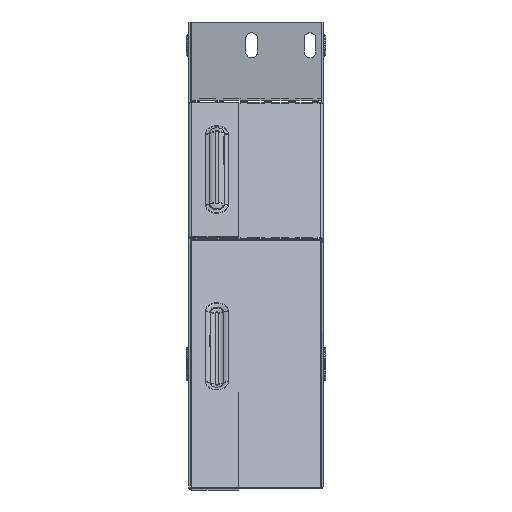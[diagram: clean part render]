
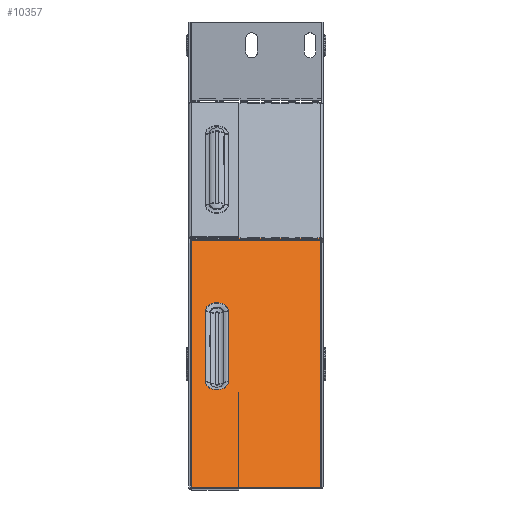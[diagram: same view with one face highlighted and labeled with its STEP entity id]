
A CAD part, left-side view. The second image highlights one B-rep face of the part: STEP entity #10357.
In plain terms, the highlighted planar face has unit normal (-0.707, 0, 0.707).
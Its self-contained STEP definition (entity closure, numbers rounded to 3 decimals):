
#43 = AXIS2_PLACEMENT_3D ( 'NONE', #16905, #16835, #7912 ) ;
#124 = ORIENTED_EDGE ( 'NONE', *, *, #9781, .F. ) ;
#423 = DIRECTION ( 'NONE',  ( 0.707, 0., 0.707 ) ) ;
#637 = EDGE_CURVE ( 'NONE', #15015, #12316, #9412, .T. ) ;
#1210 = CARTESIAN_POINT ( 'NONE',  ( 54.434, 56.183, -54.434 ) ) ;
#1450 = VERTEX_POINT ( 'NONE', #3456 ) ;
#2177 = VERTEX_POINT ( 'NONE', #11772 ) ;
#2752 = VERTEX_POINT ( 'NONE', #17674 ) ;
#3201 = LINE ( 'NONE', #1210, #12538 ) ;
#3334 = ORIENTED_EDGE ( 'NONE', *, *, #5588, .F. ) ;
#3456 = CARTESIAN_POINT ( 'NONE',  ( -30.255, 1., -139.123 ) ) ;
#3880 = CARTESIAN_POINT ( 'NONE',  ( 75.648, 70.017, -33.221 ) ) ;
#4185 = DIRECTION ( 'NONE',  ( -0.707, 0., -0.707 ) ) ;
#4793 = VERTEX_POINT ( 'NONE', #3880 ) ;
#5588 = EDGE_CURVE ( 'NONE', #14350, #1450, #16020, .T. ) ;
#5637 = CIRCLE ( 'NONE', #14034, 6.917 ) ;
#5760 = ORIENTED_EDGE ( 'NONE', *, *, #12103, .T. ) ;
#6013 = CARTESIAN_POINT ( 'NONE',  ( 33.221, 56.183, -75.648 ) ) ;
#6219 = VECTOR ( 'NONE', #16452, 1000. ) ;
#6373 = ORIENTED_EDGE ( 'NONE', *, *, #10365, .F. ) ;
#6467 = CARTESIAN_POINT ( 'NONE',  ( 139.123, 0., 30.255 ) ) ;
#6742 = EDGE_CURVE ( 'NONE', #11577, #2177, #3201, .T. ) ;
#7366 = CARTESIAN_POINT ( 'NONE',  ( 139.123, 78.2, 30.255 ) ) ;
#7453 = ORIENTED_EDGE ( 'NONE', *, *, #11722, .F. ) ;
#7912 = DIRECTION ( 'NONE',  ( 0., 1., 0. ) ) ;
#7987 = DIRECTION ( 'NONE',  ( 0., 1., 0. ) ) ;
#8764 = EDGE_CURVE ( 'NONE', #2177, #4793, #5637, .T. ) ;
#8804 = VECTOR ( 'NONE', #4185, 1000. ) ;
#9092 = EDGE_LOOP ( 'NONE', ( #6373, #124, #16686, #17571 ) ) ;
#9231 = CARTESIAN_POINT ( 'NONE',  ( -30.255, 78.2, -139.123 ) ) ;
#9329 = CARTESIAN_POINT ( 'NONE',  ( -30.255, 0., -139.123 ) ) ;
#9378 = DIRECTION ( 'NONE',  ( -0.707, 0., 0.707 ) ) ;
#9412 = LINE ( 'NONE', #11443, #14367 ) ;
#9443 = ORIENTED_EDGE ( 'NONE', *, *, #637, .F. ) ;
#9455 = LINE ( 'NONE', #6467, #11109 ) ;
#9553 = DIRECTION ( 'NONE',  ( 0., 1., 0. ) ) ;
#9781 = EDGE_CURVE ( 'NONE', #4793, #2752, #13984, .T. ) ;
#10055 = DIRECTION ( 'NONE',  ( 0., 1., 0. ) ) ;
#10248 = CIRCLE ( 'NONE', #43, 6.917 ) ;
#10357 = ADVANCED_FACE ( 'NONE', ( #11814, #18176 ), #10518, .T. ) ;
#10365 = EDGE_CURVE ( 'NONE', #2752, #11577, #10248, .T. ) ;
#10518 = PLANE ( 'NONE',  #14412 ) ;
#11109 = VECTOR ( 'NONE', #9553, 1000. ) ;
#11443 = CARTESIAN_POINT ( 'NONE',  ( 139.434, 78.2, 30.566 ) ) ;
#11577 = VERTEX_POINT ( 'NONE', #6013 ) ;
#11722 = EDGE_CURVE ( 'NONE', #1450, #15015, #17263, .T. ) ;
#11772 = CARTESIAN_POINT ( 'NONE',  ( 75.648, 56.183, -33.221 ) ) ;
#11814 = FACE_BOUND ( 'NONE', #9092, .T. ) ;
#12103 = EDGE_CURVE ( 'NONE', #14350, #12316, #9455, .T. ) ;
#12316 = VERTEX_POINT ( 'NONE', #7366 ) ;
#12410 = EDGE_LOOP ( 'NONE', ( #3334, #5760, #9443, #7453 ) ) ;
#12538 = VECTOR ( 'NONE', #16133, 1000. ) ;
#13254 = CARTESIAN_POINT ( 'NONE',  ( 75.648, 63.1, -33.221 ) ) ;
#13984 = LINE ( 'NONE', #17529, #8804 ) ;
#14034 = AXIS2_PLACEMENT_3D ( 'NONE', #13254, #16262, #10055 ) ;
#14350 = VERTEX_POINT ( 'NONE', #15803 ) ;
#14367 = VECTOR ( 'NONE', #17617, 1000. ) ;
#14412 = AXIS2_PLACEMENT_3D ( 'NONE', #18080, #9378, #423 ) ;
#14951 = VECTOR ( 'NONE', #7987, 1000. ) ;
#15015 = VERTEX_POINT ( 'NONE', #9231 ) ;
#15157 = CARTESIAN_POINT ( 'NONE',  ( 139.434, 1., 30.566 ) ) ;
#15803 = CARTESIAN_POINT ( 'NONE',  ( 139.123, 1., 30.255 ) ) ;
#16020 = LINE ( 'NONE', #15157, #6219 ) ;
#16133 = DIRECTION ( 'NONE',  ( 0.707, 0., 0.707 ) ) ;
#16262 = DIRECTION ( 'NONE',  ( -0.707, 0., 0.707 ) ) ;
#16452 = DIRECTION ( 'NONE',  ( -0.707, 0., -0.707 ) ) ;
#16686 = ORIENTED_EDGE ( 'NONE', *, *, #8764, .F. ) ;
#16835 = DIRECTION ( 'NONE',  ( -0.707, 0., 0.707 ) ) ;
#16905 = CARTESIAN_POINT ( 'NONE',  ( 33.221, 63.1, -75.648 ) ) ;
#17263 = LINE ( 'NONE', #9329, #14951 ) ;
#17529 = CARTESIAN_POINT ( 'NONE',  ( 54.434, 70.017, -54.434 ) ) ;
#17571 = ORIENTED_EDGE ( 'NONE', *, *, #6742, .F. ) ;
#17617 = DIRECTION ( 'NONE',  ( 0.707, 0., 0.707 ) ) ;
#17674 = CARTESIAN_POINT ( 'NONE',  ( 33.221, 70.017, -75.648 ) ) ;
#18080 = CARTESIAN_POINT ( 'NONE',  ( 54.434, 0., -54.434 ) ) ;
#18176 = FACE_OUTER_BOUND ( 'NONE', #12410, .T. ) ;
